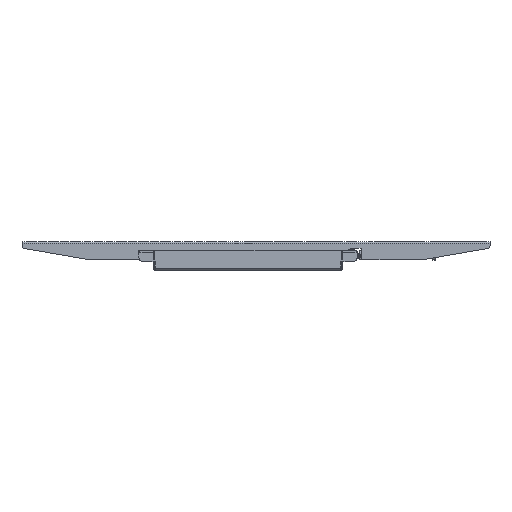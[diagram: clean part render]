
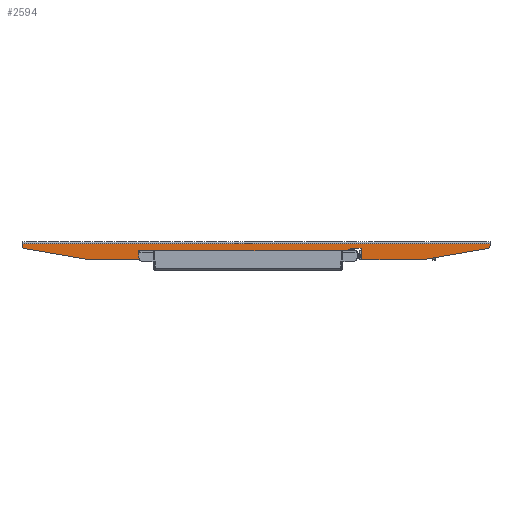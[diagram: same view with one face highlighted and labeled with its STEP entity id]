
A CAD part, left-side view. The second image highlights one B-rep face of the part: STEP entity #2594.
In plain terms, the highlighted planar face has unit normal (-1, 0, 0) as drawn and (1, 0, 0) by its records, which use the part's own axes.
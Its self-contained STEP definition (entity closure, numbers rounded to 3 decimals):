
#284=DIRECTION('',(0.,1.,0.));
#285=VECTOR('',#284,520.);
#286=CARTESIAN_POINT('',(661.309,125.655,-27.3));
#287=LINE('',#286,#285);
#372=DIRECTION('',(0.,0.,1.));
#373=VECTOR('',#372,2.275);
#374=CARTESIAN_POINT('',(661.309,645.655,-27.3));
#375=LINE('',#374,#373);
#384=CARTESIAN_POINT('',(661.309,265.855,-12.5));
#385=DIRECTION('',(-1.,0.,0.));
#386=DIRECTION('',(0.,0.,1.));
#387=AXIS2_PLACEMENT_3D('',#384,#385,#386);
#389=DIRECTION('',(0.,0.,-1.));
#390=VECTOR('',#389,10.);
#391=CARTESIAN_POINT('',(661.309,268.855,-12.5));
#392=LINE('',#391,#390);
#393=DIRECTION('',(0.,1.,0.));
#394=VECTOR('',#393,12.);
#395=CARTESIAN_POINT('',(661.309,268.855,-22.5));
#396=LINE('',#395,#394);
#397=DIRECTION('',(0.,0.707,0.707));
#398=VECTOR('',#397,4.243);
#399=CARTESIAN_POINT('',(661.309,280.855,-22.5));
#400=LINE('',#399,#398);
#401=DIRECTION('',(0.,1.,0.));
#402=VECTOR('',#401,23.);
#403=CARTESIAN_POINT('',(661.309,283.855,-19.5));
#404=LINE('',#403,#402);
#405=DIRECTION('',(0.,0.707,0.707));
#406=VECTOR('',#405,14.142);
#407=CARTESIAN_POINT('',(661.309,306.855,-19.5));
#408=LINE('',#407,#406);
#409=DIRECTION('',(0.,1.,0.));
#410=VECTOR('',#409,158.8);
#411=CARTESIAN_POINT('',(661.309,316.855,-9.5));
#412=LINE('',#411,#410);
#413=DIRECTION('',(0.,0.707,-0.707));
#414=VECTOR('',#413,14.142);
#415=CARTESIAN_POINT('',(661.309,475.655,-9.5));
#416=LINE('',#415,#414);
#417=DIRECTION('',(0.,1.,0.));
#418=VECTOR('',#417,30.);
#419=CARTESIAN_POINT('',(661.309,485.655,-19.5));
#420=LINE('',#419,#418);
#421=DIRECTION('',(0.,0.,1.));
#422=VECTOR('',#421,3.49);
#423=CARTESIAN_POINT('',(661.309,515.655,-19.5));
#424=LINE('',#423,#422);
#425=DIRECTION('',(0.,-0.981,0.196));
#426=VECTOR('',#425,10.198);
#427=CARTESIAN_POINT('',(661.309,515.655,-16.01));
#428=LINE('',#427,#426);
#429=DIRECTION('',(0.,1.,0.));
#430=VECTOR('',#429,65.);
#431=CARTESIAN_POINT('',(661.309,505.655,-9.5));
#432=LINE('',#431,#430);
#433=DIRECTION('',(0.,0.985,-0.171));
#434=VECTOR('',#433,73.594);
#435=CARTESIAN_POINT('',(661.309,570.655,-9.5));
#436=LINE('',#435,#434);
#437=CARTESIAN_POINT('',(661.309,642.655,-25.025));
#438=DIRECTION('',(-1.,0.,0.));
#439=DIRECTION('',(0.,0.171,0.985));
#440=AXIS2_PLACEMENT_3D('',#437,#438,#439);
#442=DIRECTION('',(0.,0.,1.));
#443=VECTOR('',#442,2.275);
#444=CARTESIAN_POINT('',(661.309,125.655,-27.3));
#445=LINE('',#444,#443);
#446=CARTESIAN_POINT('',(661.309,128.655,-25.025));
#447=DIRECTION('',(-1.,0.,0.));
#448=DIRECTION('',(0.,-1.,0.));
#449=AXIS2_PLACEMENT_3D('',#446,#447,#448);
#451=DIRECTION('',(0.,0.985,0.171));
#452=VECTOR('',#451,73.594);
#453=CARTESIAN_POINT('',(661.309,128.142,-22.069));
#454=LINE('',#453,#452);
#455=DIRECTION('',(0.,1.,0.));
#456=VECTOR('',#455,65.2);
#457=CARTESIAN_POINT('',(661.309,200.655,-9.5));
#458=LINE('',#457,#456);
#1603=DIRECTION('',(0.,0.,-1.));
#1604=VECTOR('',#1603,4.51);
#1605=CARTESIAN_POINT('',(661.309,505.655,-9.5));
#1606=LINE('',#1605,#1604);
#1787=CARTESIAN_POINT('',(661.309,125.655,-27.3));
#1788=VERTEX_POINT('',#1787);
#1789=CARTESIAN_POINT('',(661.309,645.655,-27.3));
#1790=VERTEX_POINT('',#1789);
#1812=CARTESIAN_POINT('',(661.309,645.655,-25.025));
#1814=VERTEX_POINT('',#1812);
#1815=CARTESIAN_POINT('',(661.309,643.167,-22.069));
#1816=VERTEX_POINT('',#1815);
#1819=CARTESIAN_POINT('',(661.309,265.855,-9.5));
#1820=CARTESIAN_POINT('',(661.309,268.855,-12.5));
#1821=VERTEX_POINT('',#1819);
#1822=VERTEX_POINT('',#1820);
#1823=CARTESIAN_POINT('',(661.309,268.855,-22.5));
#1824=VERTEX_POINT('',#1823);
#1825=CARTESIAN_POINT('',(661.309,280.855,-22.5));
#1826=VERTEX_POINT('',#1825);
#1827=CARTESIAN_POINT('',(661.309,283.855,-19.5));
#1828=VERTEX_POINT('',#1827);
#1829=CARTESIAN_POINT('',(661.309,306.855,-19.5));
#1830=VERTEX_POINT('',#1829);
#1831=CARTESIAN_POINT('',(661.309,316.855,-9.5));
#1832=VERTEX_POINT('',#1831);
#1833=CARTESIAN_POINT('',(661.309,475.655,-9.5));
#1834=VERTEX_POINT('',#1833);
#1835=CARTESIAN_POINT('',(661.309,485.655,-19.5));
#1836=VERTEX_POINT('',#1835);
#1837=CARTESIAN_POINT('',(661.309,515.655,-19.5));
#1838=VERTEX_POINT('',#1837);
#1839=CARTESIAN_POINT('',(661.309,515.655,-16.01));
#1840=VERTEX_POINT('',#1839);
#1841=CARTESIAN_POINT('',(661.309,505.655,-14.01));
#1842=VERTEX_POINT('',#1841);
#1843=CARTESIAN_POINT('',(661.309,505.655,-9.5));
#1844=VERTEX_POINT('',#1843);
#1845=CARTESIAN_POINT('',(661.309,570.655,-9.5));
#1846=VERTEX_POINT('',#1845);
#1847=CARTESIAN_POINT('',(661.309,125.655,-25.025));
#1848=VERTEX_POINT('',#1847);
#1849=CARTESIAN_POINT('',(661.309,128.142,-22.069));
#1850=VERTEX_POINT('',#1849);
#1851=CARTESIAN_POINT('',(661.309,200.655,-9.5));
#1852=VERTEX_POINT('',#1851);
#2548=CARTESIAN_POINT('',(661.309,125.655,-27.3));
#2549=DIRECTION('',(-1.,0.,0.));
#2550=DIRECTION('',(0.,0.,1.));
#2551=AXIS2_PLACEMENT_3D('',#2548,#2549,#2550);
#2552=PLANE('',#2551);
#2554=ORIENTED_EDGE('',*,*,#2553,.T.);
#2556=ORIENTED_EDGE('',*,*,#2555,.T.);
#2558=ORIENTED_EDGE('',*,*,#2557,.T.);
#2560=ORIENTED_EDGE('',*,*,#2559,.T.);
#2562=ORIENTED_EDGE('',*,*,#2561,.T.);
#2564=ORIENTED_EDGE('',*,*,#2563,.T.);
#2566=ORIENTED_EDGE('',*,*,#2565,.T.);
#2568=ORIENTED_EDGE('',*,*,#2567,.T.);
#2570=ORIENTED_EDGE('',*,*,#2569,.T.);
#2572=ORIENTED_EDGE('',*,*,#2571,.T.);
#2574=ORIENTED_EDGE('',*,*,#2573,.T.);
#2576=ORIENTED_EDGE('',*,*,#2575,.F.);
#2578=ORIENTED_EDGE('',*,*,#2577,.T.);
#2580=ORIENTED_EDGE('',*,*,#2579,.T.);
#2581=ORIENTED_EDGE('',*,*,#2531,.T.);
#2582=ORIENTED_EDGE('',*,*,#2514,.F.);
#2583=ORIENTED_EDGE('',*,*,#2339,.F.);
#2585=ORIENTED_EDGE('',*,*,#2584,.T.);
#2587=ORIENTED_EDGE('',*,*,#2586,.T.);
#2589=ORIENTED_EDGE('',*,*,#2588,.T.);
#2591=ORIENTED_EDGE('',*,*,#2590,.T.);
#2592=EDGE_LOOP('',(#2554,#2556,#2558,#2560,#2562,#2564,#2566,#2568,#2570,#2572,
#2574,#2576,#2578,#2580,#2581,#2582,#2583,#2585,#2587,#2589,#2591));
#2593=FACE_OUTER_BOUND('',#2592,.F.);
#388=CIRCLE('',#387,3.);
#441=CIRCLE('',#440,3.);
#450=CIRCLE('',#449,3.);
#2339=EDGE_CURVE('',#1788,#1790,#287,.T.);
#2514=EDGE_CURVE('',#1790,#1814,#375,.T.);
#2531=EDGE_CURVE('',#1816,#1814,#441,.T.);
#2553=EDGE_CURVE('',#1821,#1822,#388,.T.);
#2555=EDGE_CURVE('',#1822,#1824,#392,.T.);
#2557=EDGE_CURVE('',#1824,#1826,#396,.T.);
#2559=EDGE_CURVE('',#1826,#1828,#400,.T.);
#2561=EDGE_CURVE('',#1828,#1830,#404,.T.);
#2563=EDGE_CURVE('',#1830,#1832,#408,.T.);
#2565=EDGE_CURVE('',#1832,#1834,#412,.T.);
#2567=EDGE_CURVE('',#1834,#1836,#416,.T.);
#2569=EDGE_CURVE('',#1836,#1838,#420,.T.);
#2571=EDGE_CURVE('',#1838,#1840,#424,.T.);
#2573=EDGE_CURVE('',#1840,#1842,#428,.T.);
#2575=EDGE_CURVE('',#1844,#1842,#1606,.T.);
#2577=EDGE_CURVE('',#1844,#1846,#432,.T.);
#2579=EDGE_CURVE('',#1846,#1816,#436,.T.);
#2584=EDGE_CURVE('',#1788,#1848,#445,.T.);
#2586=EDGE_CURVE('',#1848,#1850,#450,.T.);
#2588=EDGE_CURVE('',#1850,#1852,#454,.T.);
#2590=EDGE_CURVE('',#1852,#1821,#458,.T.);
#2594=ADVANCED_FACE('',(#2593),#2552,.F.);
